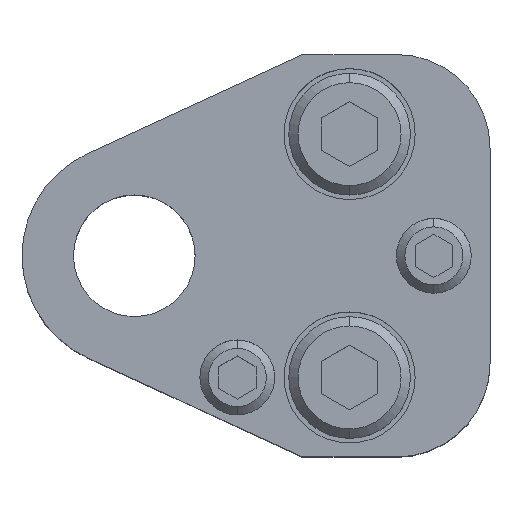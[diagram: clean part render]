
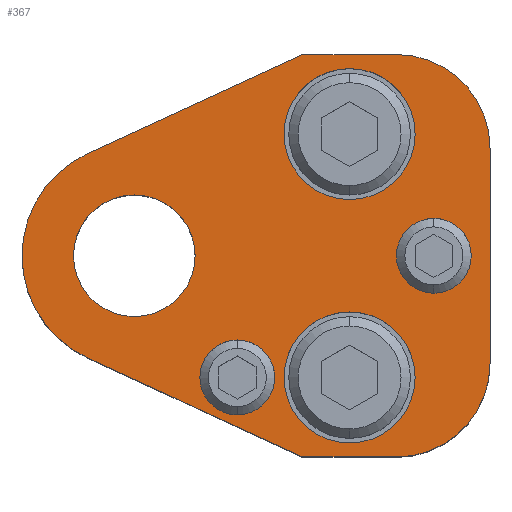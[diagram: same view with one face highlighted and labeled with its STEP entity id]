
A CAD part, top view. The second image highlights one B-rep face of the part: STEP entity #367.
In plain terms, the highlighted planar face has unit normal (0, 0, 1).
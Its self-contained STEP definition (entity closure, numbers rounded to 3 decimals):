
#149=FACE_BOUND('',#686,.T.);
#150=FACE_BOUND('',#687,.T.);
#151=FACE_BOUND('',#688,.T.);
#152=FACE_BOUND('',#689,.T.);
#153=FACE_BOUND('',#690,.T.);
#154=FACE_BOUND('',#691,.T.);
#226=CIRCLE('',#2236,10.);
#228=CIRCLE('',#2240,10.);
#231=CIRCLE('',#2245,12.);
#244=CIRCLE('',#2267,7.);
#247=CIRCLE('',#2271,7.);
#248=CIRCLE('',#2274,7.);
#251=CIRCLE('',#2278,7.);
#252=CIRCLE('',#2281,4.);
#253=CIRCLE('',#2282,4.);
#254=CIRCLE('',#2283,4.);
#255=CIRCLE('',#2284,4.);
#256=CIRCLE('',#2285,6.5);
#257=CIRCLE('',#2286,6.5);
#367=ADVANCED_FACE('',(#149,#150,#151,#152,#153,#154),#490,.T.);
#490=PLANE('',#2287);
#686=EDGE_LOOP('',(#917,#918,#919,#920,#921,#922,#923,#924));
#687=EDGE_LOOP('',(#925,#926));
#688=EDGE_LOOP('',(#927,#928));
#689=EDGE_LOOP('',(#929,#930));
#690=EDGE_LOOP('',(#931,#932));
#691=EDGE_LOOP('',(#933,#934));
#917=ORIENTED_EDGE('',*,*,#1616,.T.);
#918=ORIENTED_EDGE('',*,*,#1635,.T.);
#919=ORIENTED_EDGE('',*,*,#1599,.T.);
#920=ORIENTED_EDGE('',*,*,#1603,.T.);
#921=ORIENTED_EDGE('',*,*,#1606,.T.);
#922=ORIENTED_EDGE('',*,*,#1609,.T.);
#923=ORIENTED_EDGE('',*,*,#1612,.T.);
#924=ORIENTED_EDGE('',*,*,#1620,.T.);
#925=ORIENTED_EDGE('',*,*,#1659,.F.);
#926=ORIENTED_EDGE('',*,*,#1660,.F.);
#927=ORIENTED_EDGE('',*,*,#1661,.F.);
#928=ORIENTED_EDGE('',*,*,#1662,.F.);
#929=ORIENTED_EDGE('',*,*,#1658,.F.);
#930=ORIENTED_EDGE('',*,*,#1654,.F.);
#931=ORIENTED_EDGE('',*,*,#1652,.F.);
#932=ORIENTED_EDGE('',*,*,#1648,.F.);
#933=ORIENTED_EDGE('',*,*,#1663,.F.);
#934=ORIENTED_EDGE('',*,*,#1664,.F.);
#1410=VERTEX_POINT('',#3175);
#1411=VERTEX_POINT('',#3177);
#1414=VERTEX_POINT('',#3184);
#1416=VERTEX_POINT('',#3190);
#1418=VERTEX_POINT('',#3196);
#1420=VERTEX_POINT('',#3202);
#1423=VERTEX_POINT('',#3210);
#1424=VERTEX_POINT('',#3212);
#1444=VERTEX_POINT('',#3277);
#1446=VERTEX_POINT('',#3280);
#1448=VERTEX_POINT('',#3290);
#1450=VERTEX_POINT('',#3293);
#1452=VERTEX_POINT('',#3303);
#1453=VERTEX_POINT('',#3304);
#1454=VERTEX_POINT('',#3307);
#1455=VERTEX_POINT('',#3308);
#1456=VERTEX_POINT('',#3311);
#1457=VERTEX_POINT('',#3312);
#1599=EDGE_CURVE('',#1411,#1410,#1895,.T.);
#1603=EDGE_CURVE('',#1410,#1414,#226,.T.);
#1606=EDGE_CURVE('',#1414,#1416,#1900,.T.);
#1609=EDGE_CURVE('',#1416,#1418,#228,.T.);
#1612=EDGE_CURVE('',#1418,#1420,#1904,.T.);
#1616=EDGE_CURVE('',#1424,#1423,#231,.T.);
#1620=EDGE_CURVE('',#1420,#1424,#1910,.T.);
#1635=EDGE_CURVE('',#1423,#1411,#1917,.T.);
#1648=EDGE_CURVE('',#1444,#1446,#244,.T.);
#1652=EDGE_CURVE('',#1446,#1444,#247,.T.);
#1654=EDGE_CURVE('',#1448,#1450,#248,.T.);
#1658=EDGE_CURVE('',#1450,#1448,#251,.T.);
#1659=EDGE_CURVE('',#1452,#1453,#252,.T.);
#1660=EDGE_CURVE('',#1453,#1452,#253,.T.);
#1661=EDGE_CURVE('',#1454,#1455,#254,.T.);
#1662=EDGE_CURVE('',#1455,#1454,#255,.T.);
#1663=EDGE_CURVE('',#1456,#1457,#256,.T.);
#1664=EDGE_CURVE('',#1457,#1456,#257,.T.);
#1895=LINE('',#3176,#2065);
#1900=LINE('',#3191,#2070);
#1904=LINE('',#3203,#2074);
#1910=LINE('',#3219,#2080);
#1917=LINE('',#3247,#2087);
#2065=VECTOR('',#2493,1.);
#2070=VECTOR('',#2506,1.);
#2074=VECTOR('',#2518,1.);
#2080=VECTOR('',#2532,1.);
#2087=VECTOR('',#2559,1.);
#2236=AXIS2_PLACEMENT_3D('',#3185,#2499,#2500);
#2240=AXIS2_PLACEMENT_3D('',#3197,#2511,#2512);
#2245=AXIS2_PLACEMENT_3D('',#3211,#2525,#2526);
#2267=AXIS2_PLACEMENT_3D('',#3279,#2587,#2588);
#2271=AXIS2_PLACEMENT_3D('',#3286,#2596,#2597);
#2274=AXIS2_PLACEMENT_3D('',#3292,#2603,#2604);
#2278=AXIS2_PLACEMENT_3D('',#3299,#2612,#2613);
#2281=AXIS2_PLACEMENT_3D('',#3302,#2618,#2619);
#2282=AXIS2_PLACEMENT_3D('',#3305,#2620,#2621);
#2283=AXIS2_PLACEMENT_3D('',#3306,#2622,#2623);
#2284=AXIS2_PLACEMENT_3D('',#3309,#2624,#2625);
#2285=AXIS2_PLACEMENT_3D('',#3310,#2626,#2627);
#2286=AXIS2_PLACEMENT_3D('',#3313,#2628,#2629);
#2287=AXIS2_PLACEMENT_3D('',#3314,#2630,#2631);
#2493=DIRECTION('',(1.,0.,0.));
#2499=DIRECTION('',(0.,0.,1.));
#2500=DIRECTION('',(-0.707,0.707,0.));
#2506=DIRECTION('',(0.,1.,0.));
#2511=DIRECTION('',(0.,0.,1.));
#2512=DIRECTION('',(-0.707,-0.707,0.));
#2518=DIRECTION('',(-1.,0.,0.));
#2525=DIRECTION('',(0.,0.,1.));
#2526=DIRECTION('',(0.,1.,0.));
#2532=DIRECTION('',(-0.908,-0.418,0.));
#2559=DIRECTION('',(0.908,-0.418,0.));
#2587=DIRECTION('',(0.,0.,1.));
#2588=DIRECTION('',(-1.,0.,0.));
#2596=DIRECTION('',(0.,0.,1.));
#2597=DIRECTION('',(1.,0.,0.));
#2603=DIRECTION('',(0.,0.,1.));
#2604=DIRECTION('',(-1.,0.,0.));
#2612=DIRECTION('',(0.,0.,1.));
#2613=DIRECTION('',(1.,0.,0.));
#2618=DIRECTION('',(0.,0.,1.));
#2619=DIRECTION('',(1.,0.,0.));
#2620=DIRECTION('',(0.,0.,1.));
#2621=DIRECTION('',(-1.,0.,0.));
#2622=DIRECTION('',(0.,0.,1.));
#2623=DIRECTION('',(1.,0.,0.));
#2624=DIRECTION('',(0.,0.,1.));
#2625=DIRECTION('',(-1.,0.,0.));
#2626=DIRECTION('',(0.,0.,1.));
#2627=DIRECTION('',(-1.,0.,0.));
#2628=DIRECTION('',(0.,0.,1.));
#2629=DIRECTION('',(1.,0.,0.));
#2630=DIRECTION('',(0.,0.,1.));
#2631=DIRECTION('',(0.908,0.418,0.));
#3175=CARTESIAN_POINT('',(28.,-21.5,30.));
#3176=CARTESIAN_POINT('',(18.,-21.5,30.));
#3177=CARTESIAN_POINT('',(18.,-21.5,30.));
#3184=CARTESIAN_POINT('',(38.,-11.5,30.));
#3185=CARTESIAN_POINT('',(28.,-11.5,30.));
#3190=CARTESIAN_POINT('',(38.,11.5,30.));
#3191=CARTESIAN_POINT('',(38.,-11.5,30.));
#3196=CARTESIAN_POINT('',(28.,21.5,30.));
#3197=CARTESIAN_POINT('',(28.,11.5,30.));
#3202=CARTESIAN_POINT('',(18.,21.5,30.));
#3203=CARTESIAN_POINT('',(18.,21.5,30.));
#3210=CARTESIAN_POINT('',(-5.019,-10.9,30.));
#3211=CARTESIAN_POINT('',(0.,0.,30.));
#3212=CARTESIAN_POINT('',(-5.019,10.9,30.));
#3219=CARTESIAN_POINT('',(18.,21.5,30.));
#3247=CARTESIAN_POINT('',(18.,-21.5,30.));
#3277=CARTESIAN_POINT('',(23.,6.,30.));
#3279=CARTESIAN_POINT('',(23.,13.,30.));
#3280=CARTESIAN_POINT('',(23.,20.,30.));
#3286=CARTESIAN_POINT('',(23.,13.,30.));
#3290=CARTESIAN_POINT('',(23.,-20.,30.));
#3292=CARTESIAN_POINT('',(23.,-13.,30.));
#3293=CARTESIAN_POINT('',(23.,-6.,30.));
#3299=CARTESIAN_POINT('',(23.,-13.,30.));
#3302=CARTESIAN_POINT('',(32.,0.,30.));
#3303=CARTESIAN_POINT('',(32.,4.,30.));
#3304=CARTESIAN_POINT('',(32.,-4.,30.));
#3305=CARTESIAN_POINT('',(32.,0.,30.));
#3306=CARTESIAN_POINT('',(11.,-13.,30.));
#3307=CARTESIAN_POINT('',(11.,-9.,30.));
#3308=CARTESIAN_POINT('',(11.,-17.,30.));
#3309=CARTESIAN_POINT('',(11.,-13.,30.));
#3310=CARTESIAN_POINT('',(0.,0.,30.));
#3311=CARTESIAN_POINT('',(0.,-6.5,30.));
#3312=CARTESIAN_POINT('',(0.,6.5,30.));
#3313=CARTESIAN_POINT('',(0.,0.,30.));
#3314=CARTESIAN_POINT('',(-5.019,10.9,30.));
